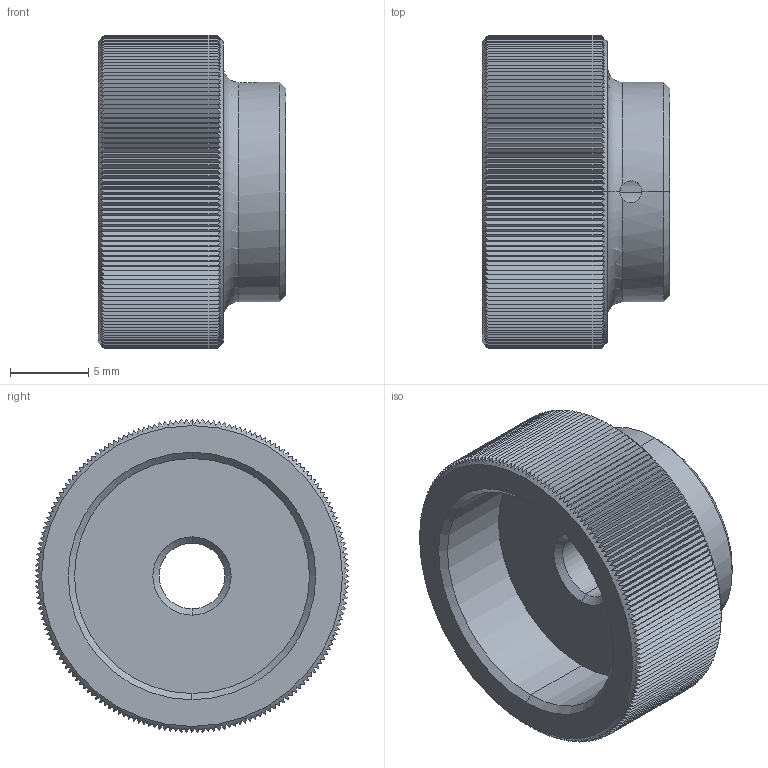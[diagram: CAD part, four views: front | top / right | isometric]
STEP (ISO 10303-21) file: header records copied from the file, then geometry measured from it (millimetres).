
FILE_DESCRIPTION (( 'STEP AP203' ), '1' );
FILE_NAME ('37170.W0105.step', '2011-09-15T08:23:48', ( 'Wixroyd' ), ( 'Wixroyd' ), 'SwSTEP 2.0', 'SolidWorks 2009', '' );
FILE_SCHEMA (( 'CONFIG_CONTROL_DESIGN' ));
Length unit declared in the file: millimetre
Products named in the file (1): 37170.W0105
Bounding box: 12 x 20 x 20 mm (x, y, z)
Volume: 2074.7 mm3; surface area: 1889.8 mm2
Topology: 1 solids, 1 shells, 384 faces, 1131 edges, 749 vertices
Faces by surface type: plane 364, cone 10, cylinder 8, torus 2
Entity records: 13372 total; most frequent: CARTESIAN_POINT 4483, ORIENTED_EDGE 2262, DIRECTION 1201, EDGE_CURVE 1131, VERTEX_POINT 749, B_SPLINE_CURVE_WITH_KNOTS 726, AXIS2_PLACEMENT_3D 411, EDGE_LOOP 388
